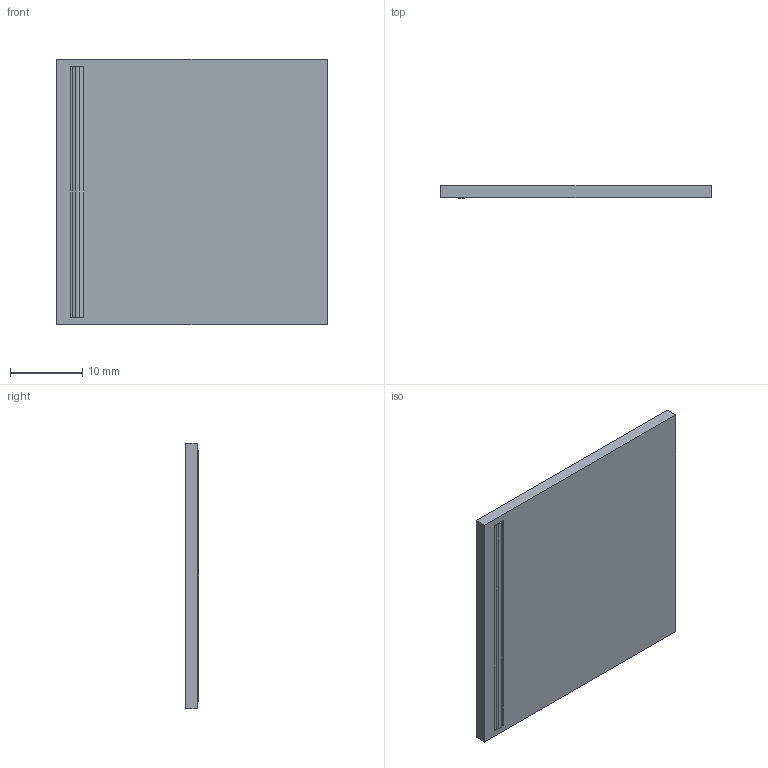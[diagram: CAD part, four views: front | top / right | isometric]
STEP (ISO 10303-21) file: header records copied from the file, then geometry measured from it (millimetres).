
FILE_DESCRIPTION (( 'STEP AP203' ), '1' );
FILE_NAME ('Ballast Holder Cover.STEP', '2025-05-08T01:57:27', ( '' ), ( '' ), 'SwSTEP 2.0', 'SolidWorks 2023', '' );
FILE_SCHEMA (( 'CONFIG_CONTROL_DESIGN' ));
Length unit declared in the file: millimetre
Products named in the file (1): Ballast Holder Cover
Bounding box: 37.4 x 1.81 x 36.7 mm (x, y, z)
Volume: 2269.8 mm3; surface area: 2991.3 mm2
Topology: 1 solids, 1 shells, 13 faces, 30 edges, 20 vertices
Faces by surface type: plane 10, cylinder 3
Entity records: 447 total; most frequent: CARTESIAN_POINT 64, DIRECTION 64, ORIENTED_EDGE 60, EDGE_CURVE 30, LINE 24, VECTOR 24, VERTEX_POINT 20, AXIS2_PLACEMENT_3D 20
